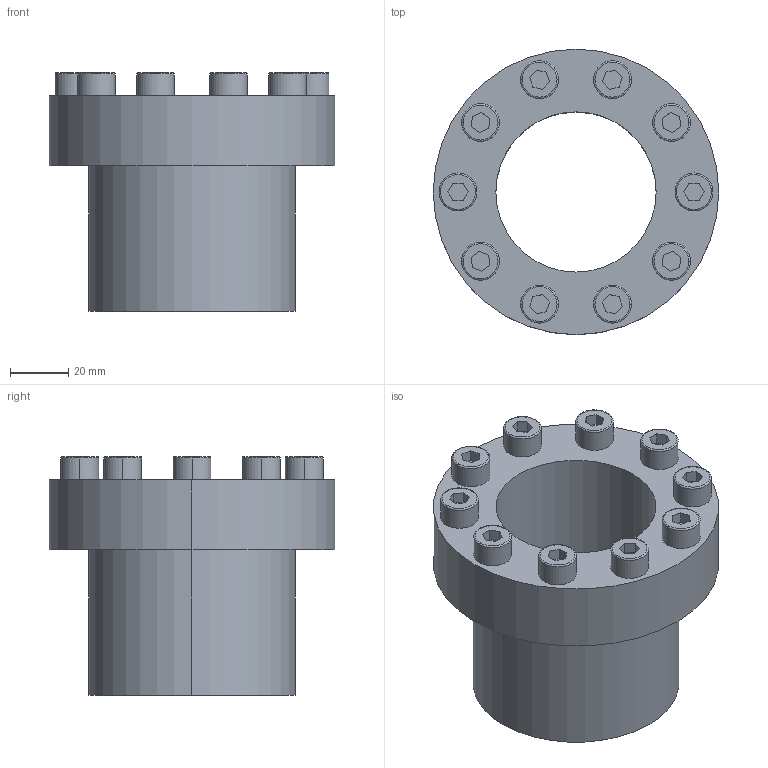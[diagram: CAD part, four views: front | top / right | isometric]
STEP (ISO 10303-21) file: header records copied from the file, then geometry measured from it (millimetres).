
FILE_DESCRIPTION (( 'STEP AP203' ), '1' );
FILE_NAME ('PL-C 55-71.STEP', '2021-10-22T08:45:40', ( '' ), ( '' ), 'SwSTEP 2.0', 'SolidWorks 2018', '' );
FILE_SCHEMA (( 'CONFIG_CONTROL_DESIGN' ));
Length unit declared in the file: millimetre
Products named in the file (1): PL-C 55-71
Bounding box: 98 x 98 x 82 mm (x, y, z)
Volume: 211415.6 mm3; surface area: 45640.7 mm2
Topology: 1 solids, 1 shells, 129 faces, 298 edges, 192 vertices
Faces by surface type: plane 83, cylinder 26, torus 20
Entity records: 3725 total; most frequent: DIRECTION 650, CARTESIAN_POINT 620, ORIENTED_EDGE 596, EDGE_CURVE 298, AXIS2_PLACEMENT_3D 222, VECTOR 206, LINE 206, VERTEX_POINT 192
